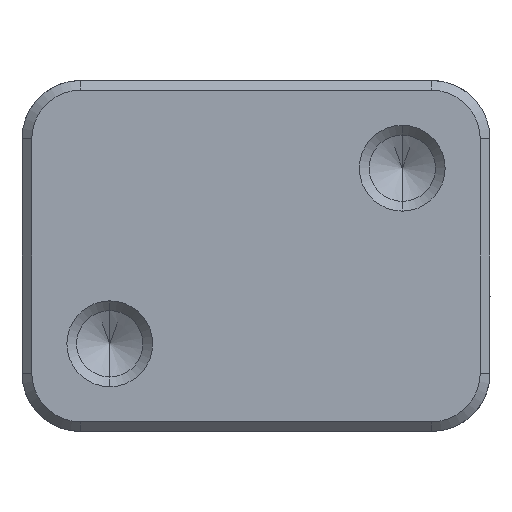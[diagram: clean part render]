
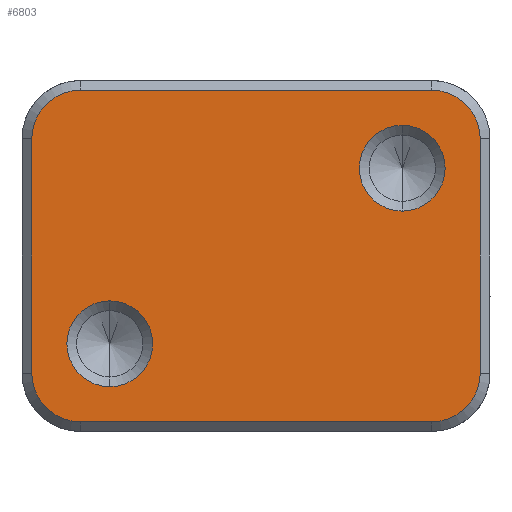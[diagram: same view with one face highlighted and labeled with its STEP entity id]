
A CAD part, front view. The second image highlights one B-rep face of the part: STEP entity #6803.
In plain terms, the highlighted planar face has unit normal (0, -1, 0).
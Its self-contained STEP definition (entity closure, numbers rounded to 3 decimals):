
#51 = VERTEX_POINT ( 'NONE', #5524 ) ;
#285 = ORIENTED_EDGE ( 'NONE', *, *, #10435, .T. ) ;
#473 = DIRECTION ( 'NONE',  ( 0., 1., 0. ) ) ;
#502 = ORIENTED_EDGE ( 'NONE', *, *, #17651, .T. ) ;
#503 = DIRECTION ( 'NONE',  ( 0., 1., 0. ) ) ;
#512 = CIRCLE ( 'NONE', #13992, 4.999 ) ;
#700 = CARTESIAN_POINT ( 'NONE',  ( -15., 0., -13.409 ) ) ;
#717 = CARTESIAN_POINT ( 'NONE',  ( -23., 0., 17.992 ) ) ;
#860 = DIRECTION ( 'NONE',  ( 1., 0., 0. ) ) ;
#1115 = DIRECTION ( 'NONE',  ( 0., -1., 0. ) ) ;
#1257 = DIRECTION ( 'NONE',  ( 0., 0., 1. ) ) ;
#1451 = VECTOR ( 'NONE', #1257, 1000. ) ;
#1769 = DIRECTION ( 'NONE',  ( 0., 1., 0. ) ) ;
#1785 = DIRECTION ( 'NONE',  ( 0., -1., 0. ) ) ;
#2033 = VECTOR ( 'NONE', #860, 1000. ) ;
#2102 = CARTESIAN_POINT ( 'NONE',  ( 15., 0., 8.993 ) ) ;
#2313 = AXIS2_PLACEMENT_3D ( 'NONE', #16454, #13384, #18520 ) ;
#2708 = CIRCLE ( 'NONE', #19107, 4.4 ) ;
#3033 = CARTESIAN_POINT ( 'NONE',  ( -15., 0., -9.009 ) ) ;
#3082 = CIRCLE ( 'NONE', #14716, 4.999 ) ;
#3391 = DIRECTION ( 'NONE',  ( 0., 0., 1. ) ) ;
#3399 = DIRECTION ( 'NONE',  ( -1., 0., 0. ) ) ;
#3900 = CARTESIAN_POINT ( 'NONE',  ( -23., 0., -12.009 ) ) ;
#4123 = CIRCLE ( 'NONE', #7053, 4.4 ) ;
#4150 = CARTESIAN_POINT ( 'NONE',  ( -195.7, 0., -17.009 ) ) ;
#4372 = CARTESIAN_POINT ( 'NONE',  ( 15., 0., 13.393 ) ) ;
#4456 = ORIENTED_EDGE ( 'NONE', *, *, #10560, .T. ) ;
#4490 = EDGE_LOOP ( 'NONE', ( #12284, #20879 ) ) ;
#4526 = EDGE_LOOP ( 'NONE', ( #502, #8184 ) ) ;
#4917 = VERTEX_POINT ( 'NONE', #9363 ) ;
#4976 = FACE_BOUND ( 'NONE', #4490, .T. ) ;
#5210 = CARTESIAN_POINT ( 'NONE',  ( 23., 0., -12.009 ) ) ;
#5221 = AXIS2_PLACEMENT_3D ( 'NONE', #10565, #1785, #15360 ) ;
#5245 = VERTEX_POINT ( 'NONE', #700 ) ;
#5524 = CARTESIAN_POINT ( 'NONE',  ( -18., 0., -17.009 ) ) ;
#5771 = VERTEX_POINT ( 'NONE', #8055 ) ;
#5887 = CARTESIAN_POINT ( 'NONE',  ( 18., 0., -12.009 ) ) ;
#6345 = VERTEX_POINT ( 'NONE', #13507 ) ;
#6710 = CARTESIAN_POINT ( 'NONE',  ( 23., 0., 17.992 ) ) ;
#6803 = ADVANCED_FACE ( 'NONE', ( #20620, #6910, #4976 ), #8395, .T. ) ;
#6806 = CARTESIAN_POINT ( 'NONE',  ( 18., 0., 11.993 ) ) ;
#6894 = ORIENTED_EDGE ( 'NONE', *, *, #13791, .T. ) ;
#6910 = FACE_BOUND ( 'NONE', #4526, .T. ) ;
#7053 = AXIS2_PLACEMENT_3D ( 'NONE', #2102, #503, #12705 ) ;
#7265 = VERTEX_POINT ( 'NONE', #17041 ) ;
#7375 = VERTEX_POINT ( 'NONE', #15880 ) ;
#7420 = DIRECTION ( 'NONE',  ( 0., 0., -1. ) ) ;
#7499 = EDGE_LOOP ( 'NONE', ( #17659, #9299, #285, #6894, #4456, #19464, #10669, #18796 ) ) ;
#8055 = CARTESIAN_POINT ( 'NONE',  ( 23., 0., 11.993 ) ) ;
#8102 = DIRECTION ( 'NONE',  ( 0., 0., 1. ) ) ;
#8128 = VERTEX_POINT ( 'NONE', #3900 ) ;
#8147 = CIRCLE ( 'NONE', #2313, 4.4 ) ;
#8184 = ORIENTED_EDGE ( 'NONE', *, *, #8211, .T. ) ;
#8211 = EDGE_CURVE ( 'NONE', #6345, #5245, #8147, .T. ) ;
#8395 = PLANE ( 'NONE',  #5221 ) ;
#8512 = EDGE_CURVE ( 'NONE', #7375, #16873, #22463, .T. ) ;
#8605 = DIRECTION ( 'NONE',  ( 0., 0., -1. ) ) ;
#8687 = CIRCLE ( 'NONE', #11600, 4.999 ) ;
#9030 = EDGE_CURVE ( 'NONE', #9206, #7265, #4123, .T. ) ;
#9206 = VERTEX_POINT ( 'NONE', #4372 ) ;
#9299 = ORIENTED_EDGE ( 'NONE', *, *, #21304, .T. ) ;
#9314 = DIRECTION ( 'NONE',  ( 0., 0., 1. ) ) ;
#9363 = CARTESIAN_POINT ( 'NONE',  ( 18., 0., -17.009 ) ) ;
#9382 = EDGE_CURVE ( 'NONE', #7265, #9206, #2708, .T. ) ;
#10435 = EDGE_CURVE ( 'NONE', #8128, #51, #512, .T. ) ;
#10560 = EDGE_CURVE ( 'NONE', #4917, #20768, #3082, .T. ) ;
#10565 = CARTESIAN_POINT ( 'NONE',  ( 24., 0., 17.992 ) ) ;
#10669 = ORIENTED_EDGE ( 'NONE', *, *, #20791, .T. ) ;
#11551 = LINE ( 'NONE', #717, #11612 ) ;
#11600 = AXIS2_PLACEMENT_3D ( 'NONE', #13243, #16538, #8102 ) ;
#11612 = VECTOR ( 'NONE', #18403, 1000. ) ;
#12284 = ORIENTED_EDGE ( 'NONE', *, *, #9382, .T. ) ;
#12627 = CARTESIAN_POINT ( 'NONE',  ( -18., 0., -12.009 ) ) ;
#12678 = AXIS2_PLACEMENT_3D ( 'NONE', #3033, #1769, #8605 ) ;
#12705 = DIRECTION ( 'NONE',  ( 0., 0., -1. ) ) ;
#12858 = DIRECTION ( 'NONE',  ( 0., 0., 1. ) ) ;
#13011 = CARTESIAN_POINT ( 'NONE',  ( -18., 0., 16.992 ) ) ;
#13243 = CARTESIAN_POINT ( 'NONE',  ( -18., 0., 11.993 ) ) ;
#13384 = DIRECTION ( 'NONE',  ( 0., 1., 0. ) ) ;
#13507 = CARTESIAN_POINT ( 'NONE',  ( -15., 0., -4.609 ) ) ;
#13660 = DIRECTION ( 'NONE',  ( 0., -1., 0. ) ) ;
#13791 = EDGE_CURVE ( 'NONE', #51, #4917, #16469, .T. ) ;
#13992 = AXIS2_PLACEMENT_3D ( 'NONE', #12627, #19585, #9314 ) ;
#14206 = CARTESIAN_POINT ( 'NONE',  ( 24., 0., 16.992 ) ) ;
#14481 = CIRCLE ( 'NONE', #12678, 4.4 ) ;
#14716 = AXIS2_PLACEMENT_3D ( 'NONE', #5887, #1115, #12858 ) ;
#14776 = CARTESIAN_POINT ( 'NONE',  ( -23., 0., 11.993 ) ) ;
#15360 = DIRECTION ( 'NONE',  ( 1., 0., 0. ) ) ;
#15868 = CARTESIAN_POINT ( 'NONE',  ( 15., 0., 8.993 ) ) ;
#15880 = CARTESIAN_POINT ( 'NONE',  ( 18., 0., 16.992 ) ) ;
#16401 = AXIS2_PLACEMENT_3D ( 'NONE', #6806, #13660, #3391 ) ;
#16454 = CARTESIAN_POINT ( 'NONE',  ( -15., 0., -9.009 ) ) ;
#16469 = LINE ( 'NONE', #4150, #2033 ) ;
#16538 = DIRECTION ( 'NONE',  ( 0., -1., 0. ) ) ;
#16873 = VERTEX_POINT ( 'NONE', #13011 ) ;
#16983 = EDGE_CURVE ( 'NONE', #16873, #21973, #8687, .T. ) ;
#17041 = CARTESIAN_POINT ( 'NONE',  ( 15., 0., 4.593 ) ) ;
#17651 = EDGE_CURVE ( 'NONE', #5245, #6345, #14481, .T. ) ;
#17659 = ORIENTED_EDGE ( 'NONE', *, *, #16983, .T. ) ;
#18403 = DIRECTION ( 'NONE',  ( 0., 0., -1. ) ) ;
#18520 = DIRECTION ( 'NONE',  ( 0., 0., -1. ) ) ;
#18726 = VECTOR ( 'NONE', #3399, 1000. ) ;
#18796 = ORIENTED_EDGE ( 'NONE', *, *, #8512, .T. ) ;
#19107 = AXIS2_PLACEMENT_3D ( 'NONE', #15868, #473, #7420 ) ;
#19464 = ORIENTED_EDGE ( 'NONE', *, *, #19936, .T. ) ;
#19585 = DIRECTION ( 'NONE',  ( 0., -1., 0. ) ) ;
#19936 = EDGE_CURVE ( 'NONE', #20768, #5771, #20647, .T. ) ;
#20423 = CIRCLE ( 'NONE', #16401, 4.999 ) ;
#20620 = FACE_OUTER_BOUND ( 'NONE', #7499, .T. ) ;
#20647 = LINE ( 'NONE', #6710, #1451 ) ;
#20768 = VERTEX_POINT ( 'NONE', #5210 ) ;
#20791 = EDGE_CURVE ( 'NONE', #5771, #7375, #20423, .T. ) ;
#20879 = ORIENTED_EDGE ( 'NONE', *, *, #9030, .T. ) ;
#21304 = EDGE_CURVE ( 'NONE', #21973, #8128, #11551, .T. ) ;
#21973 = VERTEX_POINT ( 'NONE', #14776 ) ;
#22463 = LINE ( 'NONE', #14206, #18726 ) ;
